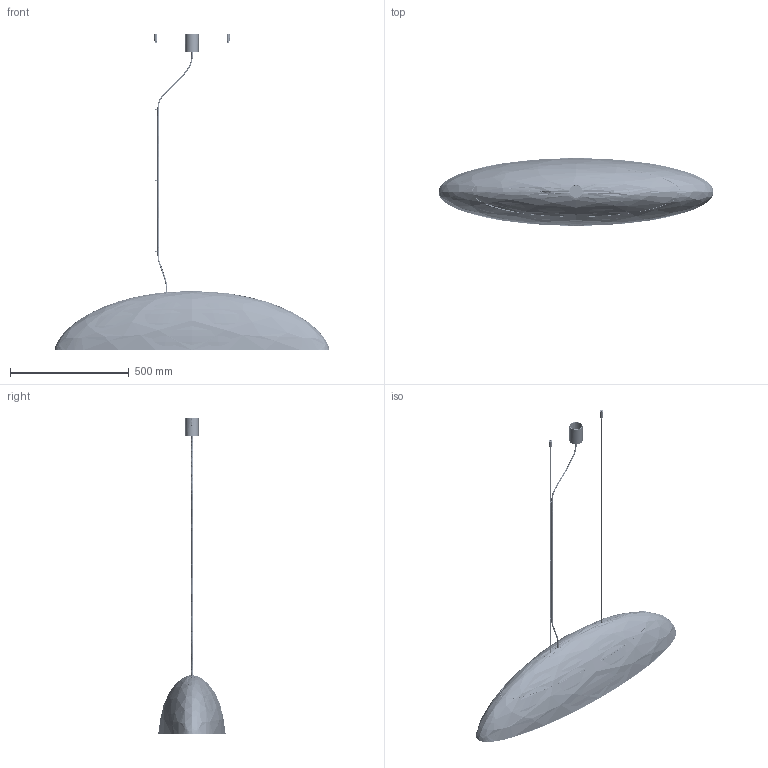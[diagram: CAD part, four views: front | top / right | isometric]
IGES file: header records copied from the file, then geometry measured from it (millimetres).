
Start section: SolidWorks IGES file using NURBS representation for surfaces
Global section: file name: Z:\Modele 3D_WWW\_KOLEKCJE_WWW\CANOE-7927-7926\CANOE-7927-7926.IGS; native system: SolidWorks 2021; preprocessor: SolidWorks 2021; author: gabriela.tworek; date: 211021.115906; units: millimetre
Bounding box: 1159.81 x 284.96 x 1335 mm (x, y, z)
Surface area: 1691466.3 mm2 (no closed solid volume)
Topology: 0 solids, 0 shells, 3492 faces, 40095 edges, 40042 vertices
Faces by surface type: bspline 3492
